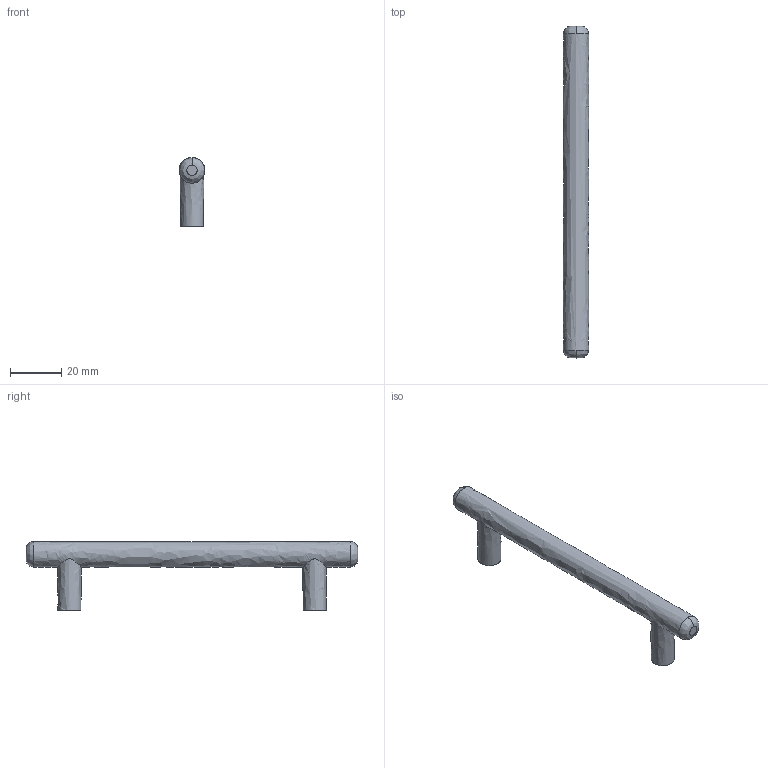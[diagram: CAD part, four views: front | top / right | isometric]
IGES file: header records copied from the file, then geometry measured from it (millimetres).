
Start section: C
Global section: file name: 8021-130.igs; native system: By Siemens PLM Incorporated; preprocessor: XPlus GENERIC/IGES 16.0.42; author: Author; organization: Title; date: 20231128.140132; units: millimetre
Bounding box: 10 x 130 x 27 mm (x, y, z)
Surface area: 5729.2 mm2 (no closed solid volume)
Topology: 0 solids, 0 shells, 27 faces, 134 edges, 134 vertices
Faces by surface type: bspline 27
